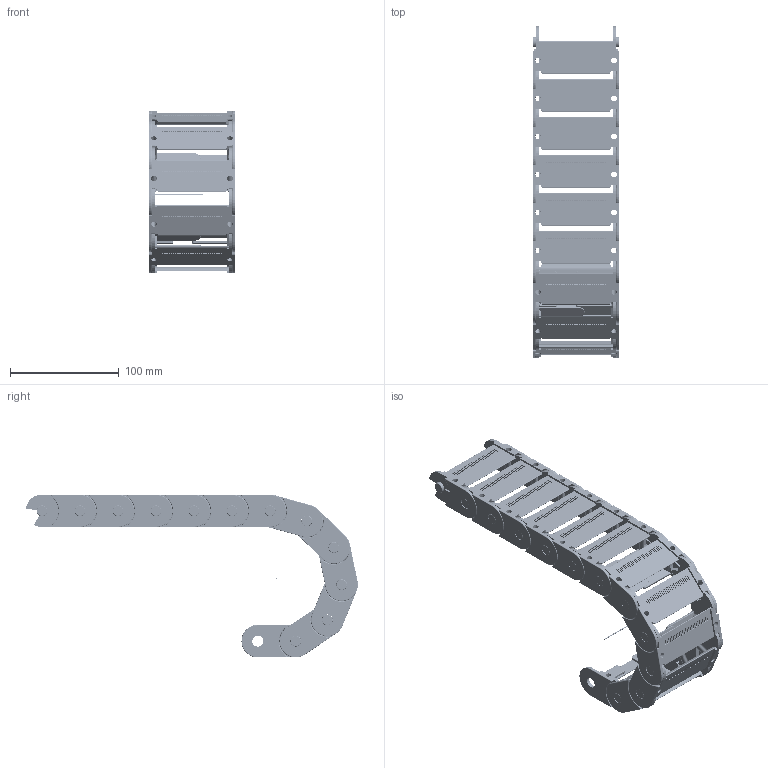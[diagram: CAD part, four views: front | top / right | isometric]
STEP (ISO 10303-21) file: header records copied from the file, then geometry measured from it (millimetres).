
FILE_DESCRIPTION((''),'2;1');
FILE_NAME('C:\Uebbing\PARAMETERKETTEN\KOLIBRI\Kol_30_080_4\Kol 30_080_4_R60.stp','2012-03-05T11:31:07',('Uebbing'),(''),'Autodesk Inventor 10','Autodesk Inventor 10','');
FILE_SCHEMA(('AUTOMOTIVE_DESIGN { 1 0 10303 214 1 1 1 1 }'));
Length unit declared in the file: millimetre
Products named in the file (3): KOLIBRI 30_080_4_PARAMETRISCH; Achse; Kol 30_080_4_Lasche
Assembly tree (13 placements, depth 2):
  KOLIBRI 30_080_4_PARAMETRISCH
    Achse
    Kol 30_080_4_Lasche  x12
Bounding box: 80 x 305.6 x 150 mm (x, y, z)
Volume: 239981.1 mm3; surface area: 193530.3 mm2
Topology: 13 solids, 13 shells, 8787 faces, 23308 edges, 15231 vertices
Faces by surface type: plane 3674, bspline 3348, cylinder 1453, torus 288, sphere 24
Full cylindrical faces by diameter (mm): 1 x1, 1.166 x12, 2.048 x12, 5.1 x12, 10 x12, 10.1 x12
Entity records: 25354 total; most frequent: CARTESIAN_POINT 7928, ORIENTED_EDGE 3850, DIRECTION 3123, EDGE_CURVE 1925, VERTEX_POINT 1266, VECTOR 1259, LINE 1259, AXIS2_PLACEMENT_3D 932
